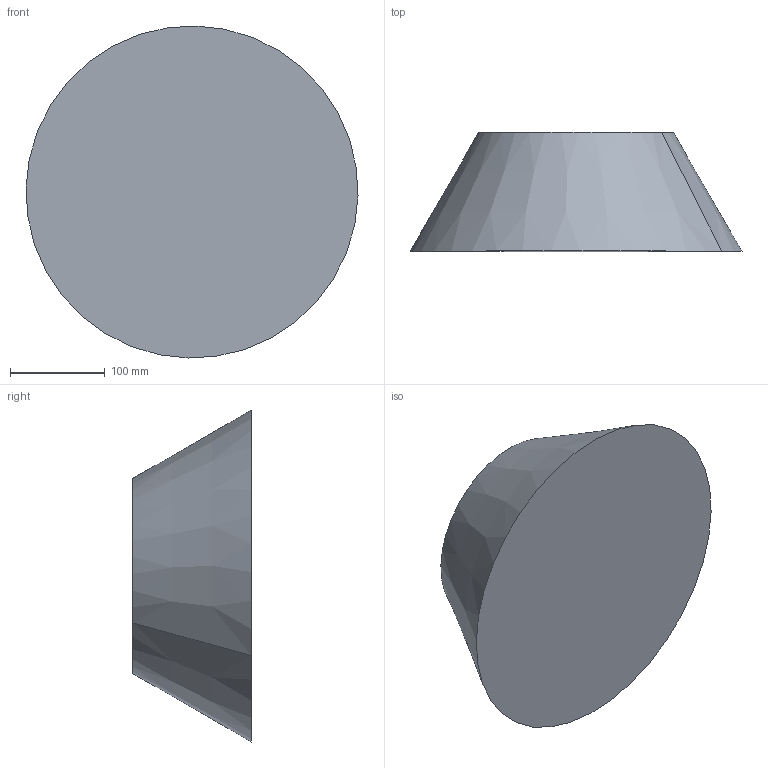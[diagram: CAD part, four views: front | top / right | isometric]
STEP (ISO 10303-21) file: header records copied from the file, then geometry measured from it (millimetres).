
FILE_DESCRIPTION(('CATIA V5 STEP Exchange'),'2;1');
FILE_NAME('C:\_Andres\UNIVERSIDAD\IQS\ASIGNATURAS\DAO\EXF\EXF-16172c\2inicio\Quiroga_Garcia_Ej09_v25.stp','2017-03-05T22:13:14+00:00',('none'),('none'),'CATIA Version 5-6 Release 2014 SP1 HF18','CATIA V5 STEP AP203','none');
FILE_SCHEMA(('CONFIG_CONTROL_DESIGN'));
Length unit declared in the file: millimetre
Products named in the file (1): Quiroga_Garcia_Ej09_v25
Bounding box: 349.9 x 125 x 349.9 mm (x, y, z)
Volume: 7740717 mm3; surface area: 257612.9 mm2
Topology: 1 solids, 2 shells, 8 faces, 12 edges, 8 vertices
Faces by surface type: plane 4, cone 2, cylinder 2
Entity records: 205 total; most frequent: CARTESIAN_POINT 27, DIRECTION 24, ORIENTED_EDGE 24, AXIS2_PLACEMENT_3D 15, EDGE_CURVE 12, ADVANCED_FACE 8, CIRCLE 8, EDGE_LOOP 8
